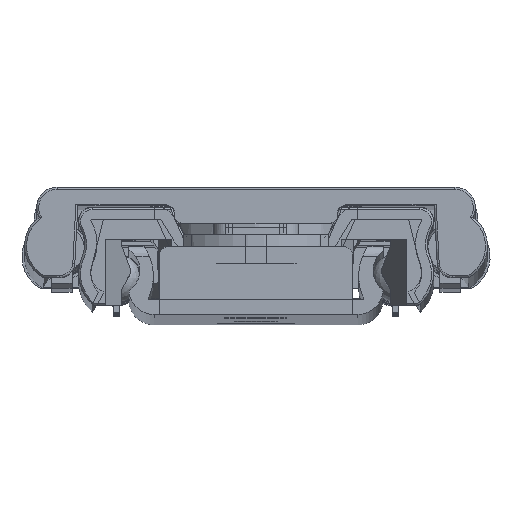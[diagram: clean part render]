
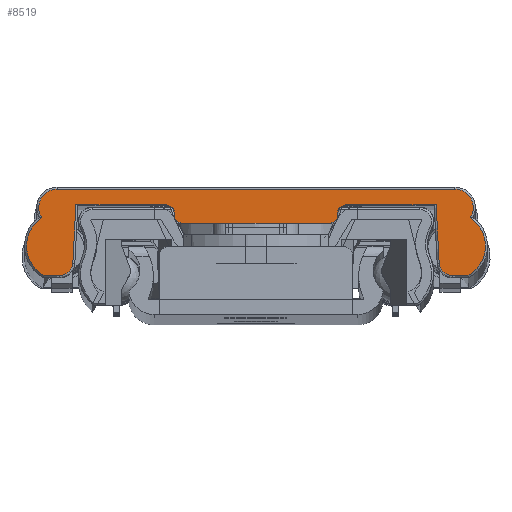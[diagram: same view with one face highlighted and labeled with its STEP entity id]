
A CAD part, top view. The second image highlights one B-rep face of the part: STEP entity #8519.
In plain terms, the highlighted planar face has unit normal (0, 0, 1) as drawn and (0, 0, -1) by its records, which use the part's own axes.
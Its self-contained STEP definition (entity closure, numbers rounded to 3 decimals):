
#7897=CARTESIAN_POINT('',(38.9,-13.718,0.0));
#7898=VERTEX_POINT('',#7897);
#7916=CARTESIAN_POINT('',(38.6,-8.,0.0));
#7917=VERTEX_POINT('',#7916);
#7925=CARTESIAN_POINT('',(38.6,-8.,0.0));
#7926=DIRECTION('',(0.052,-0.999,0.0));
#7927=VECTOR('',#7926,5.726);
#7928=LINE('',#7925,#7927);
#7929=EDGE_CURVE('',#7917,#7898,#7928,.T.);
#7939=CARTESIAN_POINT('',(40.198,-14.95,0.0));
#7940=VERTEX_POINT('',#7939);
#7958=CARTESIAN_POINT('',(40.198,-13.65,0.0));
#7959=DIRECTION('',(0.0,0.0,1.));
#7960=DIRECTION('',(-0.688,-0.725,0.0));
#7961=AXIS2_PLACEMENT_3D('',#7958,#7959,#7960);
#7962=CIRCLE('',#7961,1.3);
#7963=EDGE_CURVE('',#7898,#7940,#7962,.T.);
#7980=CARTESIAN_POINT('',(41.725,-14.95,0.0));
#7981=VERTEX_POINT('',#7980);
#7982=CARTESIAN_POINT('',(40.198,-14.95,0.0));
#7983=DIRECTION('',(1.0,0.0,0.0));
#7984=VECTOR('',#7983,1.527);
#7985=LINE('',#7982,#7984);
#7986=EDGE_CURVE('',#7940,#7981,#7985,.T.);
#8013=CARTESIAN_POINT('',(41.932,-9.272,0.0));
#8014=VERTEX_POINT('',#8013);
#8015=CARTESIAN_POINT('',(40.15,-12.05,0.0));
#8016=DIRECTION('',(0.0,0.0,1.));
#8017=DIRECTION('',(0.997,-0.072,0.0));
#8018=AXIS2_PLACEMENT_3D('',#8015,#8016,#8017);
#8019=CIRCLE('',#8018,3.3);
#8020=EDGE_CURVE('',#7981,#8014,#8019,.T.);
#8049=CARTESIAN_POINT('',(40.45,-6.45,0.0));
#8050=VERTEX_POINT('',#8049);
#8060=CARTESIAN_POINT('',(40.45,-8.25,0.0));
#8061=DIRECTION('',(0.0,0.0,1.0));
#8062=DIRECTION('',(0.861,0.509,0.0));
#8063=AXIS2_PLACEMENT_3D('',#8060,#8061,#8062);
#8064=CIRCLE('',#8063,1.8);
#8065=EDGE_CURVE('',#8014,#8050,#8064,.T.);
#8075=CARTESIAN_POINT('',(1.35,-6.45,0.0));
#8076=VERTEX_POINT('',#8075);
#8086=CARTESIAN_POINT('',(40.45,-6.45,0.0));
#8087=DIRECTION('',(-1.0,0.0,0.0));
#8088=VECTOR('',#8087,39.1);
#8089=LINE('',#8086,#8088);
#8090=EDGE_CURVE('',#8050,#8076,#8089,.T.);
#8110=CARTESIAN_POINT('',(-0.131,-9.272,0.0));
#8111=VERTEX_POINT('',#8110);
#8112=CARTESIAN_POINT('',(1.35,-8.25,0.0));
#8113=DIRECTION('',(0.0,0.0,1.0));
#8114=DIRECTION('',(-0.861,0.509,0.0));
#8115=AXIS2_PLACEMENT_3D('',#8112,#8113,#8114);
#8116=CIRCLE('',#8115,1.8);
#8117=EDGE_CURVE('',#8076,#8111,#8116,.T.);
#8144=CARTESIAN_POINT('',(0.075,-14.95,0.0));
#8145=VERTEX_POINT('',#8144);
#8146=CARTESIAN_POINT('',(1.65,-12.05,0.0));
#8147=DIRECTION('',(0.0,0.0,1.0));
#8148=DIRECTION('',(-0.997,-0.072,0.0));
#8149=AXIS2_PLACEMENT_3D('',#8146,#8147,#8148);
#8150=CIRCLE('',#8149,3.3);
#8151=EDGE_CURVE('',#8111,#8145,#8150,.T.);
#8186=CARTESIAN_POINT('',(1.602,-14.95,0.0));
#8187=VERTEX_POINT('',#8186);
#8197=CARTESIAN_POINT('',(0.075,-14.95,0.0));
#8198=DIRECTION('',(1.0,0.0,0.0));
#8199=VECTOR('',#8198,1.527);
#8200=LINE('',#8197,#8199);
#8201=EDGE_CURVE('',#8145,#8187,#8200,.T.);
#8211=CARTESIAN_POINT('',(2.9,-13.718,0.0));
#8212=VERTEX_POINT('',#8211);
#8230=CARTESIAN_POINT('',(1.602,-13.65,0.0));
#8231=DIRECTION('',(0.0,0.0,1.0));
#8232=DIRECTION('',(0.688,-0.725,0.0));
#8233=AXIS2_PLACEMENT_3D('',#8230,#8231,#8232);
#8234=CIRCLE('',#8233,1.3);
#8235=EDGE_CURVE('',#8187,#8212,#8234,.T.);
#8245=CARTESIAN_POINT('',(3.2,-8.,0.0));
#8246=VERTEX_POINT('',#8245);
#8263=CARTESIAN_POINT('',(2.9,-13.718,0.0));
#8264=DIRECTION('',(0.052,0.999,0.0));
#8265=VECTOR('',#8264,5.726);
#8266=LINE('',#8263,#8265);
#8267=EDGE_CURVE('',#8212,#8246,#8266,.T.);
#8394=CARTESIAN_POINT('',(28.1,-9.8,0.0));
#8395=VERTEX_POINT('',#8394);
#8402=CARTESIAN_POINT('',(28.9,-9.,0.0));
#8403=VERTEX_POINT('',#8402);
#8404=CARTESIAN_POINT('',(28.1,-9.0,0.0));
#8405=DIRECTION('',(0.0,0.0,1.0));
#8406=DIRECTION('',(0.707,-0.707,0.0));
#8407=AXIS2_PLACEMENT_3D('',#8404,#8405,#8406);
#8408=CIRCLE('',#8407,0.8);
#8409=EDGE_CURVE('',#8395,#8403,#8408,.T.);
#8426=CARTESIAN_POINT('',(28.9,-8.8,0.0));
#8427=VERTEX_POINT('',#8426);
#8428=CARTESIAN_POINT('',(28.9,-9.,0.0));
#8429=DIRECTION('',(0.0,1.0,0.0));
#8430=VECTOR('',#8429,0.2);
#8431=LINE('',#8428,#8430);
#8432=EDGE_CURVE('',#8403,#8427,#8431,.T.);
#8444=CARTESIAN_POINT('',(20.9,-8.942,0.0));
#8445=DIRECTION('',(0.0,0.0,1.0));
#8446=DIRECTION('',(1.0,0.0,0.0));
#8447=AXIS2_PLACEMENT_3D('',#8444,#8445,#8446);
#8448=PLANE('',#8447);
#8449=CARTESIAN_POINT('',(29.7,-8.,0.0));
#8450=VERTEX_POINT('',#8449);
#8451=CARTESIAN_POINT('',(29.7,-8.,0.0));
#8452=DIRECTION('',(1.0,0.0,0.0));
#8453=VECTOR('',#8452,8.9);
#8454=LINE('',#8451,#8453);
#8455=EDGE_CURVE('',#8450,#7917,#8454,.T.);
#8456=ORIENTED_EDGE('',*,*,#8455,.F.);
#8457=CARTESIAN_POINT('',(29.7,-8.8,0.0));
#8458=DIRECTION('',(0.0,0.0,-1.0));
#8459=DIRECTION('',(-0.707,0.707,0.0));
#8460=AXIS2_PLACEMENT_3D('',#8457,#8458,#8459);
#8461=CIRCLE('',#8460,0.8);
#8462=EDGE_CURVE('',#8427,#8450,#8461,.T.);
#8463=ORIENTED_EDGE('',*,*,#8462,.F.);
#8464=ORIENTED_EDGE('',*,*,#8432,.F.);
#8465=ORIENTED_EDGE('',*,*,#8409,.F.);
#8466=CARTESIAN_POINT('',(13.7,-9.8,0.0));
#8467=VERTEX_POINT('',#8466);
#8468=CARTESIAN_POINT('',(13.7,-9.8,0.0));
#8469=DIRECTION('',(1.0,0.0,0.0));
#8470=VECTOR('',#8469,14.4);
#8471=LINE('',#8468,#8470);
#8472=EDGE_CURVE('',#8467,#8395,#8471,.T.);
#8473=ORIENTED_EDGE('',*,*,#8472,.F.);
#8474=CARTESIAN_POINT('',(12.9,-9.,0.0));
#8475=VERTEX_POINT('',#8474);
#8476=CARTESIAN_POINT('',(13.7,-9.,0.0));
#8477=DIRECTION('',(0.0,0.0,1.));
#8478=DIRECTION('',(-0.707,-0.707,0.0));
#8479=AXIS2_PLACEMENT_3D('',#8476,#8477,#8478);
#8480=CIRCLE('',#8479,0.8);
#8481=EDGE_CURVE('',#8475,#8467,#8480,.T.);
#8482=ORIENTED_EDGE('',*,*,#8481,.F.);
#8483=CARTESIAN_POINT('',(12.9,-8.8,0.0));
#8484=VERTEX_POINT('',#8483);
#8485=CARTESIAN_POINT('',(12.9,-8.8,0.0));
#8486=DIRECTION('',(0.0,-1.0,0.0));
#8487=VECTOR('',#8486,0.2);
#8488=LINE('',#8485,#8487);
#8489=EDGE_CURVE('',#8484,#8475,#8488,.T.);
#8490=ORIENTED_EDGE('',*,*,#8489,.F.);
#8491=CARTESIAN_POINT('',(12.1,-8.0,0.0));
#8492=VERTEX_POINT('',#8491);
#8493=CARTESIAN_POINT('',(12.1,-8.8,0.0));
#8494=DIRECTION('',(0.0,0.0,-1.0));
#8495=DIRECTION('',(0.707,0.707,0.0));
#8496=AXIS2_PLACEMENT_3D('',#8493,#8494,#8495);
#8497=CIRCLE('',#8496,0.8);
#8498=EDGE_CURVE('',#8492,#8484,#8497,.T.);
#8499=ORIENTED_EDGE('',*,*,#8498,.F.);
#8500=CARTESIAN_POINT('',(3.2,-8.,0.0));
#8501=DIRECTION('',(1.0,0.0,0.0));
#8502=VECTOR('',#8501,8.9);
#8503=LINE('',#8500,#8502);
#8504=EDGE_CURVE('',#8246,#8492,#8503,.T.);
#8505=ORIENTED_EDGE('',*,*,#8504,.F.);
#8506=ORIENTED_EDGE('',*,*,#8267,.F.);
#8507=ORIENTED_EDGE('',*,*,#8235,.F.);
#8508=ORIENTED_EDGE('',*,*,#8201,.F.);
#8509=ORIENTED_EDGE('',*,*,#8151,.F.);
#8510=ORIENTED_EDGE('',*,*,#8117,.F.);
#8511=ORIENTED_EDGE('',*,*,#8090,.F.);
#8512=ORIENTED_EDGE('',*,*,#8065,.F.);
#8513=ORIENTED_EDGE('',*,*,#8020,.F.);
#8514=ORIENTED_EDGE('',*,*,#7986,.F.);
#8515=ORIENTED_EDGE('',*,*,#7963,.F.);
#8516=ORIENTED_EDGE('',*,*,#7929,.F.);
#8517=EDGE_LOOP('',(#8456,#8463,#8464,#8465,#8473,#8482,#8490,#8499,#8505,#8506,#8507,#8508,#8509,#8510,#8511,#8512,#8513,#8514,#8515,#8516));
#8518=FACE_OUTER_BOUND('',#8517,.T.);
#8519=ADVANCED_FACE('',(#8518),#8448,.F.);
